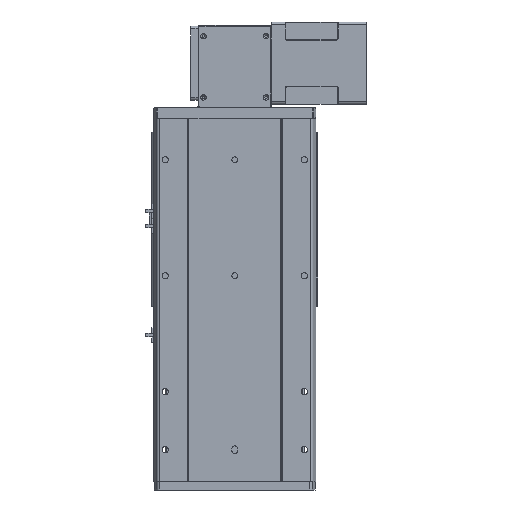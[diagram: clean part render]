
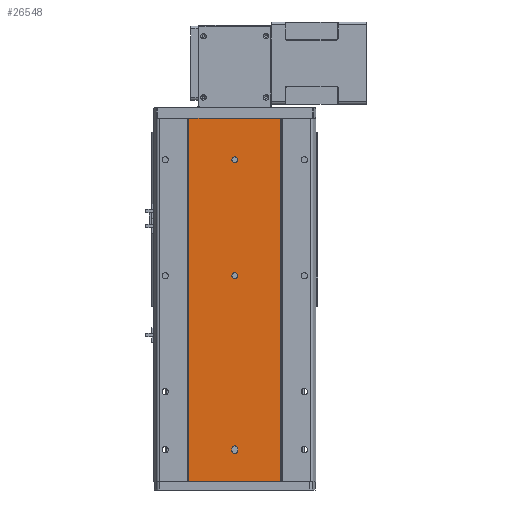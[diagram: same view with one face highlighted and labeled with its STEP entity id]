
A CAD part, front view. The second image highlights one B-rep face of the part: STEP entity #26548.
In plain terms, the highlighted planar face has unit normal (0, -1, 0).
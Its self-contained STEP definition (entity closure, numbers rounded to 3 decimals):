
#100 = AXIS2_PLACEMENT_3D ( 'NONE', #8274, #17129, #14728 ) ;
#178 = CARTESIAN_POINT ( 'NONE',  ( 5., 1.5, -627. ) ) ;
#186 = EDGE_CURVE ( 'NONE', #20682, #15969, #11163, .T. ) ;
#239 = AXIS2_PLACEMENT_3D ( 'NONE', #3147, #21253, #5516 ) ;
#493 = VERTEX_POINT ( 'NONE', #16662 ) ;
#703 = DIRECTION ( 'NONE',  ( 1., 0., 0. ) ) ;
#717 = VERTEX_POINT ( 'NONE', #3696 ) ;
#769 = VECTOR ( 'NONE', #18172, 1000. ) ;
#792 = CIRCLE ( 'NONE', #10095, 5. ) ;
#1876 = CARTESIAN_POINT ( 'NONE',  ( 0., 1.5, -276.5 ) ) ;
#2087 = VERTEX_POINT ( 'NONE', #26317 ) ;
#2378 = CARTESIAN_POINT ( 'NONE',  ( -5., 1.5, -627. ) ) ;
#2397 = DIRECTION ( 'NONE',  ( 1., 0., 0. ) ) ;
#2672 = CARTESIAN_POINT ( 'NONE',  ( -79., 1.5, -627. ) ) ;
#2728 = EDGE_CURVE ( 'NONE', #3648, #25995, #24458, .T. ) ;
#3147 = CARTESIAN_POINT ( 'NONE',  ( 0., 1.5, -271.5 ) ) ;
#3270 = CARTESIAN_POINT ( 'NONE',  ( 0., 1.5, -66.5 ) ) ;
#3438 = VECTOR ( 'NONE', #4381, 1000. ) ;
#3440 = FACE_BOUND ( 'NONE', #27321, .T. ) ;
#3648 = VERTEX_POINT ( 'NONE', #25138 ) ;
#3659 = AXIS2_PLACEMENT_3D ( 'NONE', #18574, #20831, #22765 ) ;
#3696 = CARTESIAN_POINT ( 'NONE',  ( 5., 1.5, -573. ) ) ;
#3864 = VERTEX_POINT ( 'NONE', #12274 ) ;
#4144 = EDGE_LOOP ( 'NONE', ( #7160, #24253 ) ) ;
#4381 = DIRECTION ( 'NONE',  ( 0., 0., 1. ) ) ;
#4750 = VECTOR ( 'NONE', #12477, 1000. ) ;
#4973 = DIRECTION ( 'NONE',  ( 0., 1., 0. ) ) ;
#5183 = CIRCLE ( 'NONE', #3659, 5. ) ;
#5476 = CIRCLE ( 'NONE', #100, 5. ) ;
#5516 = DIRECTION ( 'NONE',  ( 1., 0., 0. ) ) ;
#5611 = CARTESIAN_POINT ( 'NONE',  ( 79., 1.5, -627. ) ) ;
#6354 = ORIENTED_EDGE ( 'NONE', *, *, #9982, .T. ) ;
#6984 = FACE_OUTER_BOUND ( 'NONE', #12988, .T. ) ;
#7160 = ORIENTED_EDGE ( 'NONE', *, *, #7998, .T. ) ;
#7236 = EDGE_CURVE ( 'NONE', #20682, #19525, #27707, .T. ) ;
#7498 = CARTESIAN_POINT ( 'NONE',  ( -79., 1.5, -627. ) ) ;
#7998 = EDGE_CURVE ( 'NONE', #16217, #2087, #19961, .T. ) ;
#8013 = AXIS2_PLACEMENT_3D ( 'NONE', #13196, #11195, #10815 ) ;
#8185 = AXIS2_PLACEMENT_3D ( 'NONE', #20039, #22273, #17790 ) ;
#8274 = CARTESIAN_POINT ( 'NONE',  ( 0., 1.5, -271.5 ) ) ;
#8536 = EDGE_CURVE ( 'NONE', #717, #3648, #5183, .T. ) ;
#9305 = AXIS2_PLACEMENT_3D ( 'NONE', #11822, #4973, #703 ) ;
#9419 = FACE_BOUND ( 'NONE', #4144, .T. ) ;
#9462 = DIRECTION ( 'NONE',  ( 1., 0., 0. ) ) ;
#9585 = ORIENTED_EDGE ( 'NONE', *, *, #7236, .F. ) ;
#9982 = EDGE_CURVE ( 'NONE', #29057, #26727, #792, .T. ) ;
#10095 = AXIS2_PLACEMENT_3D ( 'NONE', #27032, #24640, #13728 ) ;
#10815 = DIRECTION ( 'NONE',  ( 1., 0., 0. ) ) ;
#11163 = LINE ( 'NONE', #17656, #21995 ) ;
#11195 = DIRECTION ( 'NONE',  ( 0., 1., 0. ) ) ;
#11449 = CIRCLE ( 'NONE', #9305, 5. ) ;
#11822 = CARTESIAN_POINT ( 'NONE',  ( 0., 1.5, -71.5 ) ) ;
#12274 = CARTESIAN_POINT ( 'NONE',  ( -5., 1.5, -570. ) ) ;
#12477 = DIRECTION ( 'NONE',  ( 0., 0., -1. ) ) ;
#12988 = EDGE_LOOP ( 'NONE', ( #19186, #9585, #19630, #28118 ) ) ;
#13196 = CARTESIAN_POINT ( 'NONE',  ( 0., 1.5, -570. ) ) ;
#13728 = DIRECTION ( 'NONE',  ( 1., 0., 0. ) ) ;
#13753 = CARTESIAN_POINT ( 'NONE',  ( -5., 1.5, -573. ) ) ;
#13893 = DIRECTION ( 'NONE',  ( 0., -1., 0. ) ) ;
#13902 = EDGE_CURVE ( 'NONE', #15969, #493, #21667, .T. ) ;
#14346 = DIRECTION ( 'NONE',  ( 0., 0., 1. ) ) ;
#14728 = DIRECTION ( 'NONE',  ( 1., 0., 0. ) ) ;
#14767 = CARTESIAN_POINT ( 'NONE',  ( 79., 1.5, -627. ) ) ;
#14940 = EDGE_CURVE ( 'NONE', #26727, #29057, #11449, .T. ) ;
#15025 = CARTESIAN_POINT ( 'NONE',  ( -79., 1.5, 0. ) ) ;
#15324 = EDGE_CURVE ( 'NONE', #3864, #27459, #22567, .T. ) ;
#15959 = ORIENTED_EDGE ( 'NONE', *, *, #15324, .T. ) ;
#15969 = VERTEX_POINT ( 'NONE', #14767 ) ;
#16217 = VERTEX_POINT ( 'NONE', #1876 ) ;
#16662 = CARTESIAN_POINT ( 'NONE',  ( 79., 1.5, 0. ) ) ;
#16673 = EDGE_CURVE ( 'NONE', #2087, #16217, #5476, .T. ) ;
#16891 = AXIS2_PLACEMENT_3D ( 'NONE', #7498, #13893, #9462 ) ;
#17024 = ORIENTED_EDGE ( 'NONE', *, *, #19144, .T. ) ;
#17128 = EDGE_CURVE ( 'NONE', #27459, #717, #21181, .T. ) ;
#17129 = DIRECTION ( 'NONE',  ( 0., 1., 0. ) ) ;
#17656 = CARTESIAN_POINT ( 'NONE',  ( -79., 1.5, -627. ) ) ;
#17790 = DIRECTION ( 'NONE',  ( 1., 0., 0. ) ) ;
#17968 = CARTESIAN_POINT ( 'NONE',  ( -79., 1.5, 0. ) ) ;
#18172 = DIRECTION ( 'NONE',  ( 0., 0., 1. ) ) ;
#18420 = ORIENTED_EDGE ( 'NONE', *, *, #17128, .T. ) ;
#18528 = PLANE ( 'NONE',  #16891 ) ;
#18574 = CARTESIAN_POINT ( 'NONE',  ( 0., 1.5, -573. ) ) ;
#19144 = EDGE_CURVE ( 'NONE', #25995, #3864, #25126, .T. ) ;
#19186 = ORIENTED_EDGE ( 'NONE', *, *, #21710, .F. ) ;
#19525 = VERTEX_POINT ( 'NONE', #15025 ) ;
#19630 = ORIENTED_EDGE ( 'NONE', *, *, #186, .T. ) ;
#19961 = CIRCLE ( 'NONE', #239, 5. ) ;
#20039 = CARTESIAN_POINT ( 'NONE',  ( 0., 1.5, -573. ) ) ;
#20682 = VERTEX_POINT ( 'NONE', #2672 ) ;
#20831 = DIRECTION ( 'NONE',  ( 0., 1., 0. ) ) ;
#21181 = LINE ( 'NONE', #178, #4750 ) ;
#21253 = DIRECTION ( 'NONE',  ( 0., 1., 0. ) ) ;
#21667 = LINE ( 'NONE', #5611, #25492 ) ;
#21710 = EDGE_CURVE ( 'NONE', #19525, #493, #23553, .T. ) ;
#21721 = ORIENTED_EDGE ( 'NONE', *, *, #14940, .T. ) ;
#21960 = DIRECTION ( 'NONE',  ( 1., 0., 0. ) ) ;
#21995 = VECTOR ( 'NONE', #21960, 1000. ) ;
#22273 = DIRECTION ( 'NONE',  ( 0., 1., 0. ) ) ;
#22542 = CARTESIAN_POINT ( 'NONE',  ( -79., 1.5, -627. ) ) ;
#22567 = CIRCLE ( 'NONE', #8013, 5. ) ;
#22765 = DIRECTION ( 'NONE',  ( 1., 0., 0. ) ) ;
#23198 = VECTOR ( 'NONE', #2397, 1000. ) ;
#23553 = LINE ( 'NONE', #17968, #23198 ) ;
#24046 = ORIENTED_EDGE ( 'NONE', *, *, #2728, .T. ) ;
#24253 = ORIENTED_EDGE ( 'NONE', *, *, #16673, .T. ) ;
#24458 = CIRCLE ( 'NONE', #8185, 5. ) ;
#24576 = CARTESIAN_POINT ( 'NONE',  ( 0., 1.5, -76.5 ) ) ;
#24640 = DIRECTION ( 'NONE',  ( 0., 1., 0. ) ) ;
#25126 = LINE ( 'NONE', #2378, #3438 ) ;
#25138 = CARTESIAN_POINT ( 'NONE',  ( 0., 1.5, -578. ) ) ;
#25492 = VECTOR ( 'NONE', #14346, 1000. ) ;
#25519 = ORIENTED_EDGE ( 'NONE', *, *, #8536, .T. ) ;
#25682 = EDGE_LOOP ( 'NONE', ( #21721, #6354 ) ) ;
#25995 = VERTEX_POINT ( 'NONE', #13753 ) ;
#26317 = CARTESIAN_POINT ( 'NONE',  ( 0., 1.5, -266.5 ) ) ;
#26548 = ADVANCED_FACE ( 'NONE', ( #27895, #6984, #9419, #3440 ), #18528, .T. ) ;
#26727 = VERTEX_POINT ( 'NONE', #24576 ) ;
#27032 = CARTESIAN_POINT ( 'NONE',  ( 0., 1.5, -71.5 ) ) ;
#27321 = EDGE_LOOP ( 'NONE', ( #17024, #15959, #18420, #25519, #24046 ) ) ;
#27424 = CARTESIAN_POINT ( 'NONE',  ( 5., 1.5, -570. ) ) ;
#27459 = VERTEX_POINT ( 'NONE', #27424 ) ;
#27707 = LINE ( 'NONE', #22542, #769 ) ;
#27895 = FACE_BOUND ( 'NONE', #25682, .T. ) ;
#28118 = ORIENTED_EDGE ( 'NONE', *, *, #13902, .T. ) ;
#29057 = VERTEX_POINT ( 'NONE', #3270 ) ;
